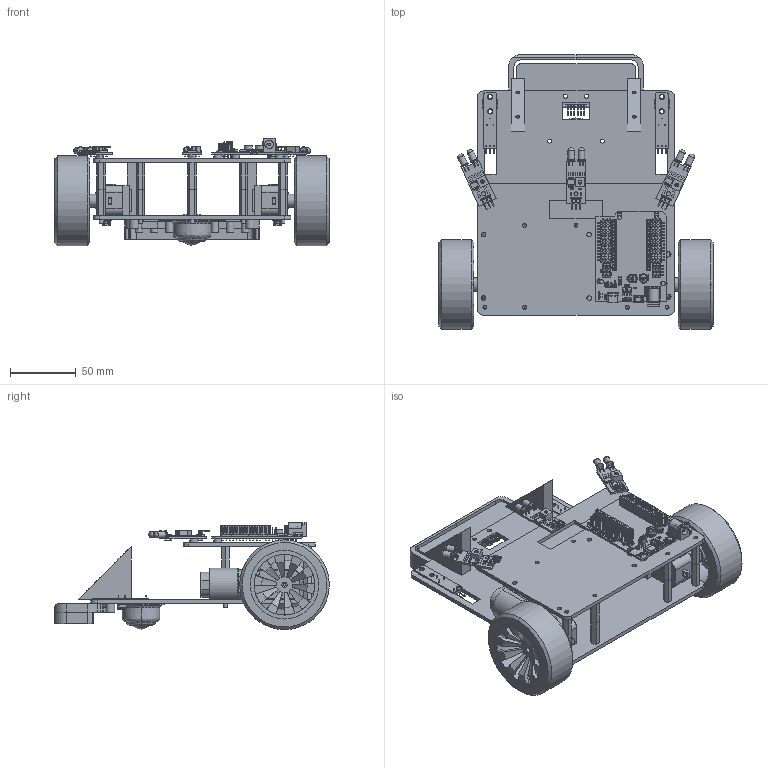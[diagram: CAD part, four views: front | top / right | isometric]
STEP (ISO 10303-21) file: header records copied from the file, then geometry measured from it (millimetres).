
FILE_DESCRIPTION(/* description */ (''),/* implementation_level */ '2;1');
FILE_NAME(/* name */ '2627_CAR_v2.step',/* time_stamp */ '2026-11-24T08:49:23+08:00',/* author */ (''),/* organization */ (''),/* preprocessor_version */ 'ST-DEVELOPER v20.2',/* originating_system */ 'Autodesk Translation Framework v15.15.0.0',/* authorisation */ '');
FILE_SCHEMA (('AUTOMOTIVE_DESIGN { 1 0 10303 214 3 1 1 }'));
Products named in the file (80): 2026-07-27-11-51-47-921; 2026-08-01-00-42-22-758; 2026-08-01-00-42-22-763; 2026-08-01-00-42-22-758_1; 2026-08-01-00-42-22-770; 2026-08-01-00-42-22-763_1; 2026-08-01-00-43-26-429; 2026-08-01-00-43-26-436; 2026-08-01-00-43-26-430; 2026-08-01-00-43-26-445; 2026-08-01-00-43-26-436_1; 2026-08-01-00-45-03-609; 2026-08-01-00-45-21-994; 2026-08-01-00-48-38-899; 2026-08-01-00-49-20-749; 2026-08-01-00-57-42-266; 2026-08-01-00-58-15-114; 2026-08-01-01-04-14-343; 2026-08-07-15-14-31-476; 2026-08-05-14-39-39-151; 2026-08-05-14-40-18-319; 2026-08-05-14-40-18-319_1; 2026-08-05-14-39-39-151_1; 2026-08-05-14-40-18-319_2; 2026-08-05-14-40-18-319_3; 2026-08-05-14-39-39-151_2; 2026-08-05-14-40-18-319_4; 2026-08-05-14-40-18-319_5; 2026-08-05-14-39-39-151_3; 2026-08-05-14-40-18-319_6; 2026-08-05-14-40-18-319_7; 2026-08-05-14-39-39-151_4; 2026-08-05-14-40-18-319_8; 2026-08-05-14-40-18-319_9; 2026-08-05-14-39-39-151_5; 2026-08-05-14-40-18-319_10; 2026-08-05-14-40-18-319_11; 2026-08-05-14-39-39-151_6; 2026-08-05-14-40-18-319_12; 2026-08-05-14-40-18-319_13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
Assembly tree (102 placements, depth 4):
  2026-07-27-11-51-47-921
    2026-08-01-00-42-22-758
      2026-08-01-00-42-22-763
        2026-08-01-00-42-22-758_1
      2026-08-01-00-42-22-770
        2026-08-01-00-42-22-763_1
    2026-08-01-00-43-26-429
      2026-08-01-00-43-26-436
        2026-08-01-00-43-26-430
      2026-08-01-00-43-26-445
        2026-08-01-00-43-26-436_1
    2026-08-01-00-45-03-609
    2026-08-01-00-45-21-994
    2026-08-01-00-48-38-899
    2026-08-01-00-49-20-749
    2026-08-01-00-57-42-266
    2026-08-01-00-58-15-114
    2026-08-01-01-04-14-343
    2026-08-07-15-14-31-476
    2026-08-05-14-39-39-151
      2026-08-05-14-40-18-319
        2026-08-05-14-40-18-319_14
      2026-08-05-14-40-18-319_1
        2026-08-05-14-40-18-319_14
    2026-08-05-14-39-39-151_1
      2026-08-05-14-40-18-319_2
        2026-08-05-14-40-18-319_14
      2026-08-05-14-40-18-319_3
        2026-08-05-14-40-18-319_14
    2026-08-05-14-39-39-151_2
      2026-08-05-14-40-18-319_4
        2026-08-05-14-40-18-319_14
      2026-08-05-14-40-18-319_5
        2026-08-05-14-40-18-319_14
    2026-08-05-14-39-39-151_3
      2026-08-05-14-40-18-319_6
        2026-08-05-14-40-18-319_14
      2026-08-05-14-40-18-319_7
        2026-08-05-14-40-18-319_14
    2026-08-05-14-39-39-151_4
      2026-08-05-14-40-18-319_8
        2026-08-05-14-40-18-319_14
      2026-08-05-14-40-18-319_9
        2026-08-05-14-40-18-319_14
    2026-08-05-14-39-39-151_5
      2026-08-05-14-40-18-319_10
        2026-08-05-14-40-18-319_14
      2026-08-05-14-40-18-319_11
        2026-08-05-14-40-18-319_14
    2026-08-05-14-39-39-151_6
      2026-08-05-14-40-18-319_12
        2026-08-05-14-40-18-319_14
      2026-08-05-14-40-18-319_13
        2026-08-05-14-40-18-319_14
    2026-08-05-15-44-54-622
    2026-08-07-15-39-53-321  x2
    2026-08-10-14-19-40-956
      2026-08-10-14-19-40-956_1
      2026-08-10-14-19-40-959
      2026-08-10-14-19-40-960
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Bounding box: 207.8 x 208.2 x 81.25 mm (x, y, z)
Volume: 314761.3 mm3; surface area: 229098 mm2
Topology: 300 solids, 857 shells, 11117 faces, 29392 edges, 19785 vertices
Faces by surface type: plane 8999, bspline 1094, cylinder 791, cone 145, torus 66, sphere 22
Full cylindrical faces by diameter (mm): 0.5 x2, 1 x8, 1.5 x3, 2 x7, 2.529 x14, 2.794 x3, 2.9 x8, 2.927 x14, 3 x52, 3.048 x3, 3.4 x1, 3.5 x4, 4 x12, 4.826 x6, 5 x2, 5.4 x2, 5.8 x16, 5.842 x6, 6 x11, 6.3 x4, 6.5 x1, 10 x2, 16 x4, 25 x1, 46 x2, 52 x4, 68 x2
Entity records: 364258 total; most frequent: CARTESIAN_POINT 120007, ORIENTED_EDGE 50186, DIRECTION 44412, EDGE_CURVE 26333, LINE 22166, VECTOR 22166, VERTEX_POINT 17787, AXIS2_PLACEMENT_3D 11123
